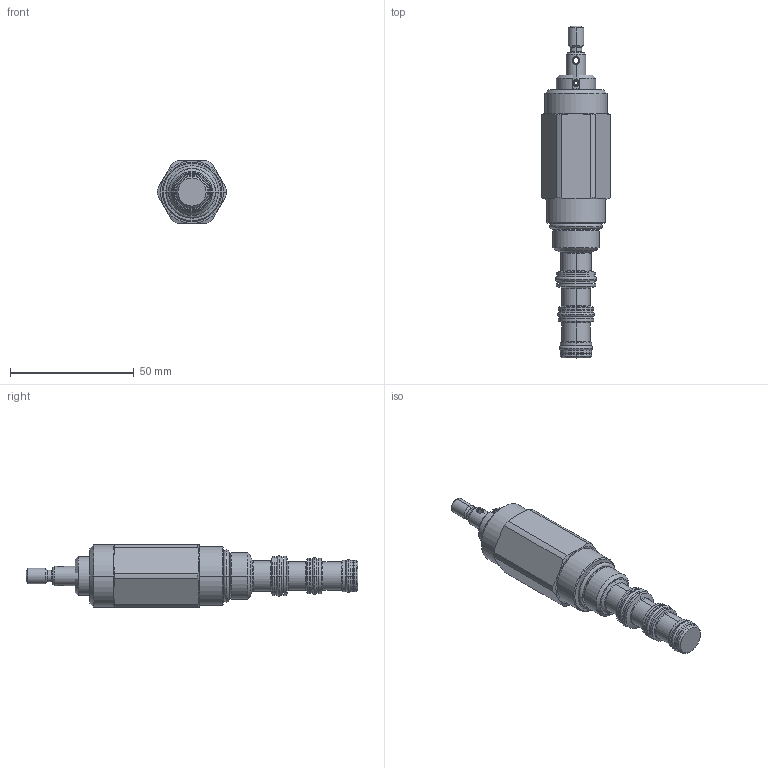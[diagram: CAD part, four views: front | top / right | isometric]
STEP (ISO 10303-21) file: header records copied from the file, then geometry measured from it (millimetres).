
FILE_DESCRIPTION((''),'2;1');
FILE_NAME('5270600_SW0001','2009-02-04T',('jcs'),(''),'PRO/ENGINEER BY PARAMETRIC TECHNOLOGY CORPORATION, 2008010','PRO/ENGINEER BY PARAMETRIC TECHNOLOGY CORPORATION, 2008010','');
FILE_SCHEMA(('CONFIG_CONTROL_DESIGN'));
Length unit declared in the file: inch
Products named in the file (1): 5270600_SW0001
Bounding box: 28.04 x 134.29 x 25.4 mm (x, y, z)
Volume: 38696.7 mm3; surface area: 11366.8 mm2
Topology: 6 solids, 6 shells, 253 faces, 567 edges, 328 vertices
Faces by surface type: cylinder 74, cone 61, plane 46, torus 40, revolution 32
Entity records: 8049 total; most frequent: CARTESIAN_POINT 2310, DIRECTION 1271, ORIENTED_EDGE 1134, EDGE_CURVE 567, AXIS2_PLACEMENT_3D 533, VERTEX_POINT 328, CIRCLE 312, EDGE_LOOP 269
